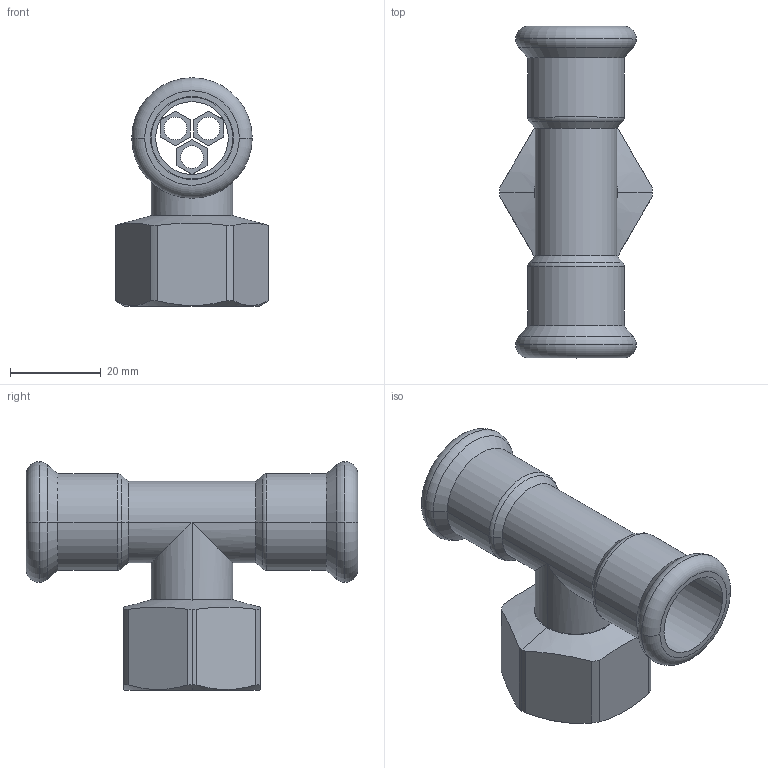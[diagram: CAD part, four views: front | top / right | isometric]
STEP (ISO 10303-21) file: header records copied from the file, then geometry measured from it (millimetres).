
FILE_DESCRIPTION(('OneSpaceDesigner STEP Export'),'2;1');
FILE_NAME('R2718 18xRp3-4x18.stp','2010-06-10T 9:58:47',(''),(''),'OneSpace Designer STEP processor for AP214 (Solid Model)','OneSpace Modeling 15.00A 14-Mar-2007 (C) CoCreate Software GmbH','');
FILE_SCHEMA(('AUTOMOTIVE_DESIGN { 1 0 10303 214 1 1 1 1 }'));
Length unit declared in the file: millimetre
Products named in the file (2): R2718_18xRp3-4x18
Assembly tree (1 placements, depth 2):
  R2718_18xRp3-4x18
    R2718_18xRp3-4x18
Bounding box: 33.61 x 73 x 50.25 mm (x, y, z)
Volume: 14527.5 mm3; surface area: 15942.4 mm2
Topology: 1 solids, 1 shells, 192 faces, 483 edges, 308 vertices
Faces by surface type: plane 95, cylinder 65, cone 20, torus 12
Entity records: 6446 total; most frequent: CARTESIAN_POINT 2187, ORIENTED_EDGE 966, DIRECTION 749, EDGE_CURVE 483, VERTEX_POINT 308, VECTOR 287, LINE 287, AXIS2_PLACEMENT_3D 231
